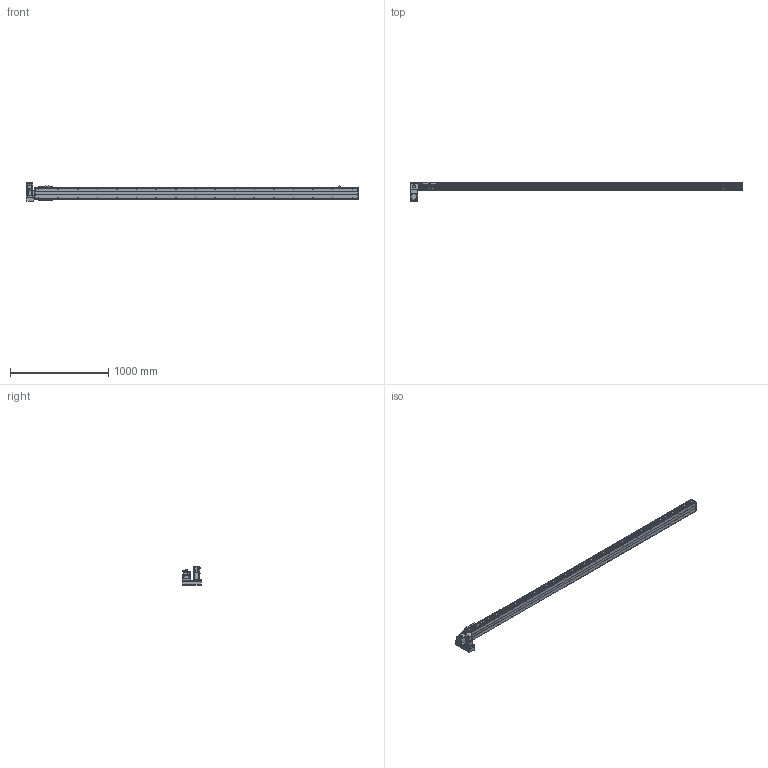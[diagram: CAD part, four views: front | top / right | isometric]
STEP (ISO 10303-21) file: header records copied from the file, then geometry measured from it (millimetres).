
FILE_DESCRIPTION( ( 'STEP AP214' ), '1' );
FILE_NAME( 'x:/temp/worker_6/temp/exporttempdir_3468_29_vei3u/format_0/PBS120-P40-S3000-LD-T40-C1-N(0).stp', '2022-06-08T08:15:01', ( 'License CC BY-ND 4.0' ), ( 'CADENAS' ), ' ', 'PARTsolutions', ' ' );
FILE_SCHEMA( ( 'AUTOMOTIVE_DESIGN { 1 0 10303 214 1 1 1 1 }' ) );
Length unit declared in the file: millimetre
Products named in the file (7): PBS120-P40-S3000-LD-T40-C1-N(0); _PBS120-S3000()_body; _PBS120T-LD_motors; _T40-p1; _PBS120_sliser; _PBS120_plant; _PBS120_sensor
Assembly tree (8 placements, depth 2):
  PBS120-P40-S3000-LD-T40-C1-N(0)
    _PBS120-S3000()_body
    _PBS120T-LD_motors
    _T40-p1
    _PBS120_sliser
    _PBS120_plant
    _PBS120_sensor  x3
Bounding box: 3386 x 196 x 189.7 mm (x, y, z)
Volume: 12471304.9 mm3; surface area: 2599981.9 mm2
Topology: 8 solids, 8 shells, 882 faces, 2246 edges, 1441 vertices
Faces by surface type: plane 567, cylinder 247, cone 66, torus 2
Full cylindrical faces by diameter (mm): 2.459 x6, 3.242 x4, 4 x2, 4.134 x4, 4.5 x10, 4.917 x38, 5.5 x11, 6 x2, 6.6 x1, 7 x2, 8.5 x4, 9 x4, 12 x1, 14 x1, 30 x2, 40 x1, 50 x2
Entity records: 28836 total; most frequent: DIRECTION 3956, CARTESIAN_POINT 3839, ORIENTED_EDGE 3610, EDGE_CURVE 1805, AXIS2_PLACEMENT_3D 1364, VERTEX_POINT 1247, LINE 1228, VECTOR 1228
